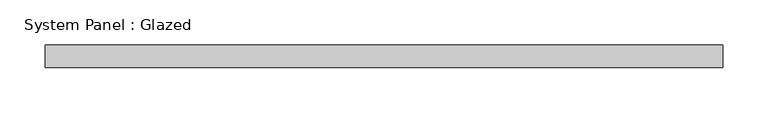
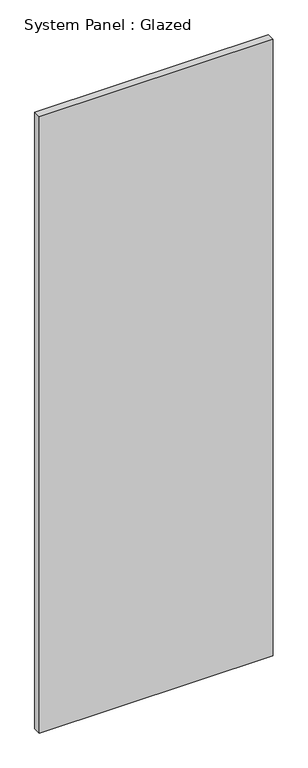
"""IFC4 building model written with IfcOpenShell, lengths in millimetres: plate geometry, System Panel : Glazed."""

from ifc_helpers import new_model, si_unit, origin, origin_with_axes, place, context, project, spatial, polyline, outline, extrude, source, transform, mapped, element, save


def system_panel_glazed_9da17e9e(model_context):
    return source(origin(), model_context, "Body", "SweptSolid", [
        extrude(outline(polyline([(375.9636197, 19.05), (-375.9636197, 19.05), (-375.9636197, 44.45), (375.9636197, 44.45), (375.9636197, 19.05)])), origin_with_axes(), (0.0, 0.0, 1.0), 2095.5),
    ])


if __name__ == "__main__":
    model = new_model("IFC4")
    model_context = context("Model", 3, world=origin())
    ifc_project = project(units=[si_unit("LENGTHUNIT", "METRE", prefix="MILLI")], contexts=[model_context])
    site = spatial("IfcSite", under=ifc_project)
    building = spatial("IfcBuilding", under=site)
    placement = place(None, origin())
    system_panel_glazed_shape = system_panel_glazed_9da17e9e(model_context)
    element("IfcPlate", 1, ObjectType="System Panel : Glazed", at=placement, inside=building, context=model_context, shape_type="MappedRepresentation", body=[
        mapped(system_panel_glazed_shape, transform((0.0, 0.0, 0.0), x_axis=(1.0, 0.0, 0.0), y_axis=(0.0, 1.0, 0.0), z_axis=(0.0, 0.0, 1.0))),
    ])
    save(model, "model.ifc")
